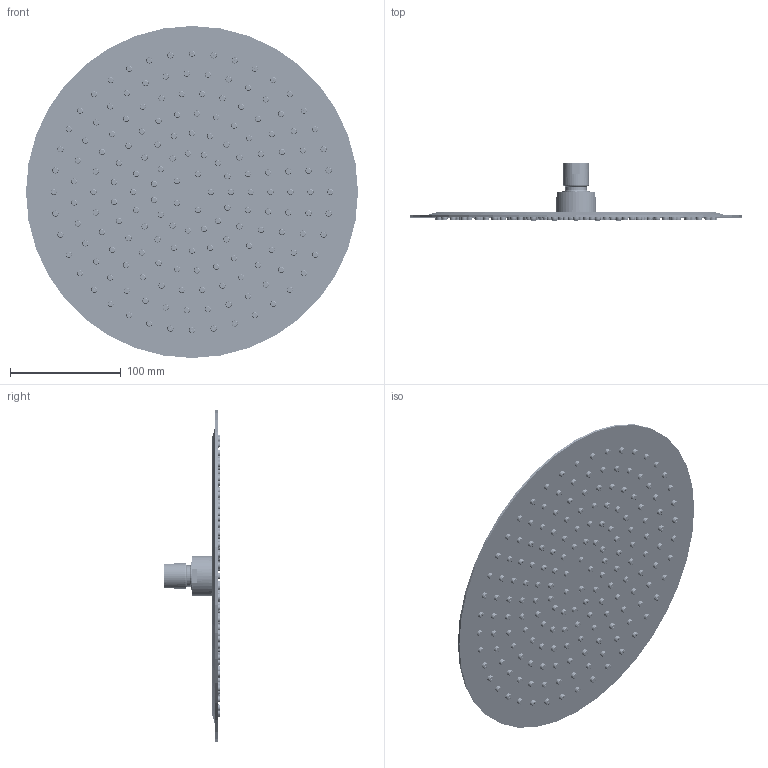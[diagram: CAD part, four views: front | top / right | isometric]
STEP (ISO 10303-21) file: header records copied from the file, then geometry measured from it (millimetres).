
FILE_DESCRIPTION((''),'2;1');
FILE_NAME('46672--_ASM','2024-06-06T11:15:56',('kaka1'),(''),'CREO PARAMETRIC BY PTC INC, 2022244','CREO PARAMETRIC BY PTC INC, 2022244','');
FILE_SCHEMA(('CONFIG_CONTROL_DESIGN'));
Length unit declared in the file: millimetre
Products named in the file (13): P32600-001_2; SPRAYPLATE; P32500-015_7; SPRAYPLATE_ASSY_ASM; P10100-003_2; P24800-010_2; 30100069_2; F200-011_ASM_2_ASM; T10364-001_34; P26500-017_4; T10367_ASM_1_ASM; P42702_ASM_21_ASM; 46672--_ASM
Assembly tree (181 placements, depth 4):
  46672--_ASM
    P42702_ASM_21_ASM
      SPRAYPLATE_ASSY_ASM
        P32600-001_2
        SPRAYPLATE
        P32500-015_7  x170
      F200-011_ASM_2_ASM
        P10100-003_2
        P24800-010_2
        30100069_2
      T10367_ASM_1_ASM
        T10364-001_34
        P26500-017_4
Bounding box: 300 x 51.3 x 300 mm (x, y, z)
Volume: 182028 mm3; surface area: 344597.6 mm2
Topology: 177 solids, 177 shells, 7472 faces, 20406 edges, 14287 vertices
Faces by surface type: cylinder 2480, torus 2068, plane 1493, cone 1380, bspline 39, sphere 9, extrusion 3
Entity records: 36497 total; most frequent: CARTESIAN_POINT 13856, DIRECTION 5101, ORIENTED_EDGE 4282, EDGE_CURVE 2141, AXIS2_PLACEMENT_3D 2132, VERTEX_POINT 1443, EDGE_LOOP 1112, CIRCLE 1088
